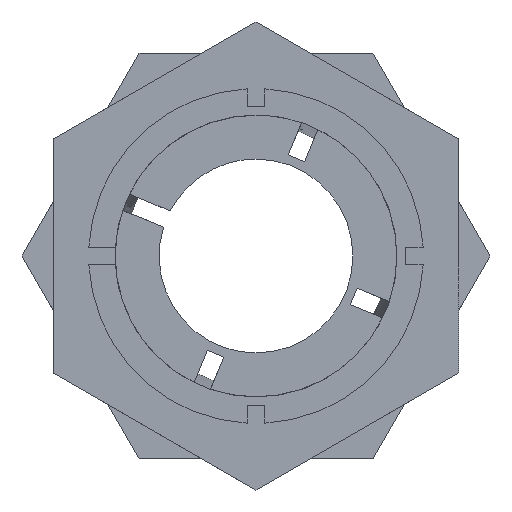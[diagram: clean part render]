
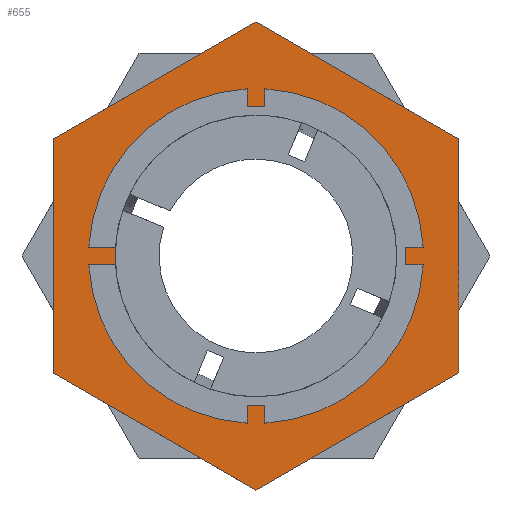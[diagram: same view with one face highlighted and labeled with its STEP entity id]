
A CAD part, left-side view. The second image highlights one B-rep face of the part: STEP entity #655.
In plain terms, the highlighted planar face has unit normal (-1, 0, 0).
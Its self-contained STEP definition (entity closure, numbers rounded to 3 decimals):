
#48 = CARTESIAN_POINT ( 'NONE',  ( 20.52, 23., -13.279 ) ) ;
#62 = CARTESIAN_POINT ( 'NONE',  ( 20.52, 0., -15.001 ) ) ;
#72 = CARTESIAN_POINT ( 'NONE',  ( 20.52, 0., 26.558 ) ) ;
#74 = CARTESIAN_POINT ( 'NONE',  ( 20.52, -23., 13.279 ) ) ;
#83 = CARTESIAN_POINT ( 'NONE',  ( 20.52, -23., -13.279 ) ) ;
#88 = CARTESIAN_POINT ( 'NONE',  ( 20.52, 0., -26.558 ) ) ;
#104 = CARTESIAN_POINT ( 'NONE',  ( 20.52, 0., 15.001 ) ) ;
#113 = CARTESIAN_POINT ( 'NONE',  ( 20.52, 23., 13.279 ) ) ;
#226 = EDGE_CURVE ( 'NONE', #2095, #1902, #804, .T. ) ;
#253 = AXIS2_PLACEMENT_3D ( 'NONE', #882, #877, #876 ) ;
#256 = AXIS2_PLACEMENT_3D ( 'NONE', #847, #840, #839 ) ;
#337 = AXIS2_PLACEMENT_3D ( 'NONE', #1626, #1586, #1585 ) ;
#464 = EDGE_CURVE ( 'NONE', #2087, #2053, #1426, .T. ) ;
#467 = EDGE_CURVE ( 'NONE', #2069, #2077, #1429, .T. ) ;
#499 = FACE_BOUND ( 'NONE', #2134, .T. ) ;
#502 = FACE_OUTER_BOUND ( 'NONE', #2109, .T. ) ;
#505 = LINE ( 'NONE', #866, #508 ) ;
#507 = VECTOR ( 'NONE', #853, 1000. ) ;
#508 = VECTOR ( 'NONE', #865, 1000. ) ;
#513 = LINE ( 'NONE', #854, #507 ) ;
#516 = LINE ( 'NONE', #859, #522 ) ;
#522 = VECTOR ( 'NONE', #846, 1000. ) ;
#527 = CIRCLE ( 'NONE', #256, 15.001 ) ;
#536 = LINE ( 'NONE', #828, #537 ) ;
#537 = VECTOR ( 'NONE', #827, 1000. ) ;
#655 = ADVANCED_FACE ( 'NONE', ( #499, #502 ), #883, .F. ) ;
#803 = VECTOR ( 'NONE', #1796, 1000. ) ;
#804 = LINE ( 'NONE', #1799, #803 ) ;
#827 = DIRECTION ( 'NONE',  ( 0., 0.866, -0.5 ) ) ;
#828 = CARTESIAN_POINT ( 'NONE',  ( 20.52, 23., 13.279 ) ) ;
#839 = DIRECTION ( 'NONE',  ( 0., 0., 1. ) ) ;
#840 = DIRECTION ( 'NONE',  ( -1., 0., 0. ) ) ;
#846 = DIRECTION ( 'NONE',  ( 0., -0.866, 0.5 ) ) ;
#847 = CARTESIAN_POINT ( 'NONE',  ( 20.52, 0., 0. ) ) ;
#853 = DIRECTION ( 'NONE',  ( 0., 0., -1. ) ) ;
#854 = CARTESIAN_POINT ( 'NONE',  ( 20.52, 23., -13.279 ) ) ;
#859 = CARTESIAN_POINT ( 'NONE',  ( 20.52, -23., -13.279 ) ) ;
#865 = DIRECTION ( 'NONE',  ( 0., 0.866, 0.5 ) ) ;
#866 = CARTESIAN_POINT ( 'NONE',  ( 20.52, 0., 26.558 ) ) ;
#876 = DIRECTION ( 'NONE',  ( 0., 0., -1. ) ) ;
#877 = DIRECTION ( 'NONE',  ( 1., 0., 0. ) ) ;
#882 = CARTESIAN_POINT ( 'NONE',  ( 20.52, 50., 0. ) ) ;
#883 = PLANE ( 'NONE',  #253 ) ;
#891 = EDGE_CURVE ( 'NONE', #2077, #1905, #505, .T. ) ;
#896 = EDGE_CURVE ( 'NONE', #2049, #2095, #513, .T. ) ;
#899 = EDGE_CURVE ( 'NONE', #1902, #2069, #516, .T. ) ;
#902 = EDGE_CURVE ( 'NONE', #2053, #2087, #527, .T. ) ;
#908 = EDGE_CURVE ( 'NONE', #1905, #2049, #536, .T. ) ;
#1077 = ORIENTED_EDGE ( 'NONE', *, *, #891, .T. ) ;
#1078 = ORIENTED_EDGE ( 'NONE', *, *, #467, .T. ) ;
#1079 = ORIENTED_EDGE ( 'NONE', *, *, #899, .T. ) ;
#1080 = ORIENTED_EDGE ( 'NONE', *, *, #226, .T. ) ;
#1081 = ORIENTED_EDGE ( 'NONE', *, *, #896, .T. ) ;
#1082 = ORIENTED_EDGE ( 'NONE', *, *, #908, .T. ) ;
#1083 = ORIENTED_EDGE ( 'NONE', *, *, #464, .F. ) ;
#1084 = ORIENTED_EDGE ( 'NONE', *, *, #902, .F. ) ;
#1426 = CIRCLE ( 'NONE', #337, 15.001 ) ;
#1429 = LINE ( 'NONE', #1550, #1432 ) ;
#1432 = VECTOR ( 'NONE', #1549, 1000. ) ;
#1549 = DIRECTION ( 'NONE',  ( 0., 0., 1. ) ) ;
#1550 = CARTESIAN_POINT ( 'NONE',  ( 20.52, -23., 13.279 ) ) ;
#1585 = DIRECTION ( 'NONE',  ( 0., 0., 1. ) ) ;
#1586 = DIRECTION ( 'NONE',  ( -1., 0., 0. ) ) ;
#1626 = CARTESIAN_POINT ( 'NONE',  ( 20.52, 0., 0. ) ) ;
#1796 = DIRECTION ( 'NONE',  ( 0., -0.866, -0.5 ) ) ;
#1799 = CARTESIAN_POINT ( 'NONE',  ( 20.52, 0., -26.558 ) ) ;
#1902 = VERTEX_POINT ( 'NONE', #88 ) ;
#1905 = VERTEX_POINT ( 'NONE', #72 ) ;
#2049 = VERTEX_POINT ( 'NONE', #113 ) ;
#2053 = VERTEX_POINT ( 'NONE', #104 ) ;
#2069 = VERTEX_POINT ( 'NONE', #83 ) ;
#2077 = VERTEX_POINT ( 'NONE', #74 ) ;
#2087 = VERTEX_POINT ( 'NONE', #62 ) ;
#2095 = VERTEX_POINT ( 'NONE', #48 ) ;
#2109 = EDGE_LOOP ( 'NONE', ( #1082, #1081, #1080, #1079, #1078, #1077 ) ) ;
#2134 = EDGE_LOOP ( 'NONE', ( #1084, #1083 ) ) ;
